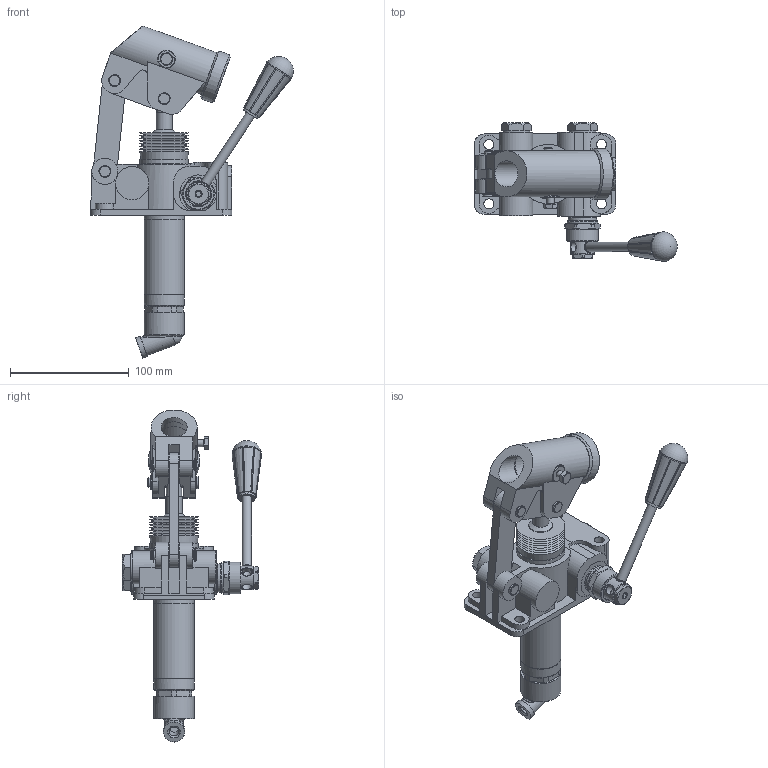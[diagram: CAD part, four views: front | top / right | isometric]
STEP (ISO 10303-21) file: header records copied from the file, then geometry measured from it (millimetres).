
FILE_DESCRIPTION(/* description */ ('Unknown'),/* implementation_level */ '2;1');
FILE_NAME(/* name */ 'HPTCV-S',/* time_stamp */ '2024-11-28T11:37:34+01:00',/* author */ ('Unknown'),/* organization */ ('Unknown'),/* preprocessor_version */ 'ST-DEVELOPER v19.4',/* originating_system */ 'Solid Edge',/* authorisation */ 'Unknown');
FILE_SCHEMA (('AUTOMOTIVE_DESIGN {1 0 10303 214 3 1 1}'));
Length unit declared in the file: millimetre
Products named in the file (1): HPTCV-S
Bounding box: 170.98 x 117.33 x 280.09 mm (x, y, z)
Volume: 525071.3 mm3; surface area: 143150.4 mm2
Topology: 9 solids, 9 shells, 2220 faces, 6260 edges, 4096 vertices
Faces by surface type: plane 1773, cylinder 238, cone 106, torus 80, bspline 17, sphere 6
Full cylindrical faces by diameter (mm): 4 x5, 5 x1, 5.1 x4, 5.994 x5, 7.792 x6, 7.992 x3, 8 x5, 8.092 x4, 8.1 x5, 8.4 x1, 8.5 x4, 8.566 x2, 8.7 x1, 9.491 x1, 9.728 x1, 9.99 x3, 10 x1, 11 x2, 12.5 x1, 12.8 x1, 13.6 x1, 13.7 x1, 13.986 x1, 14 x3, 14.95 x7, 16 x2, 16.6 x2, 17 x1, 18 x2, 19.8 x1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
Entity records: 86562 total; most frequent: CARTESIAN_POINT 15219, ORIENTED_EDGE 11838, DIRECTION 10979, EDGE_CURVE 5919, LINE 4717, VECTOR 4717, VERTEX_POINT 3978, AXIS2_PLACEMENT_3D 3131
